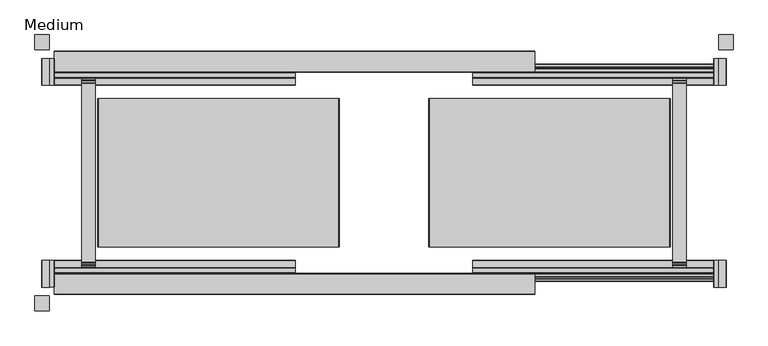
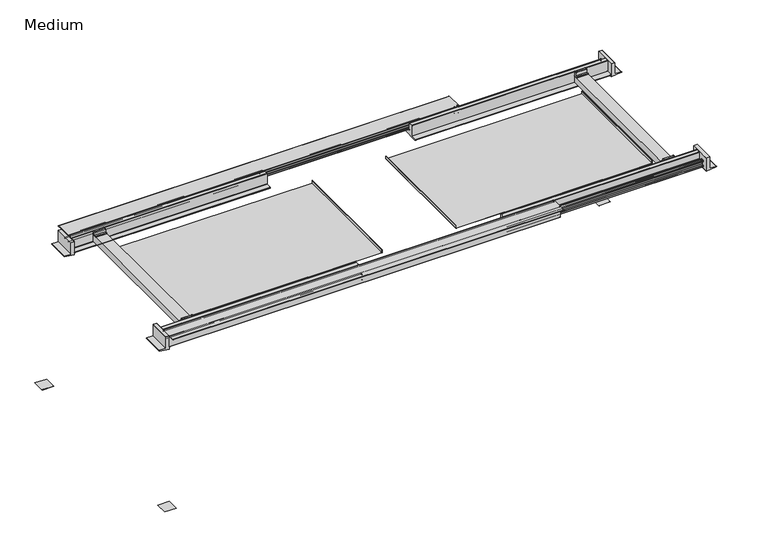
"""IFC4 building model written with IfcOpenShell, lengths in millimetres: furniture geometry, Haworth_Cassina_Naan_CollaborativeTable_ExtendableWidth_NA : Medium."""

from ifc_helpers import new_model, si_unit, point, frame, frame_2d, origin, place, context, project, spatial, polyline, circle_curve, trimmed, segment, composite_curve, outline, extrude, faceted_brep, source, transform, mapped, element, save


def medium_d73daffb(model_context):
    return source(origin(), model_context, "Body", "SolidModel", [
        extrude(outline(composite_curve([segment(polyline([(-664.0054144, 692.1374765), (-665.6185041, 692.1374765)]), True, "CONTINUOUS"), segment(trimmed(circle_curve(frame_2d((-665.6185041, 692.6405674)), 0.5030909), [point((-665.6185041, 692.1374765))], [point((-666.121595, 692.6405674))], False, "CARTESIAN"), True, "CONTINUOUS"), segment(polyline([(-666.121595, 692.6405674), (-666.121595, 698.8728326)]), True, "CONTINUOUS"), segment(trimmed(circle_curve(frame_2d((-665.1401983, 698.8728326)), 0.9813967), [point((-666.121595, 698.8728326))], [point((-665.1401983, 699.8542294))], False, "CARTESIAN"), True, "CONTINUOUS"), segment(polyline([(-665.1401983, 699.8542294), (-656.6941232, 699.8542294)]), True, "CONTINUOUS"), segment(trimmed(circle_curve(frame_2d((-656.6941232, 697.8266666)), 2.0275627), [point((-656.6941232, 699.8542294))], [point((-654.9382044, 698.8404515))], False, "CARTESIAN"), True, "CONTINUOUS"), segment(polyline([(-654.9382044, 698.8404515), (-650.3525487, 690.897899)]), True, "CONTINUOUS"), segment(trimmed(circle_curve(frame_2d((-648.5163338, 691.958043)), 2.1202807), [point((-650.3525487, 690.897899))], [point((-648.5163338, 689.8377623))], True, "CARTESIAN"), True, "CONTINUOUS"), segment(polyline([(-648.5163338, 689.8377623), (-639.4067348, 689.8377623)]), True, "CONTINUOUS"), segment(trimmed(circle_curve(frame_2d((-639.4067348, 692.0120822)), 2.1743199), [point((-639.4067348, 689.8377623))], [point((-637.2324149, 692.0120822))], True, "CARTESIAN"), True, "CONTINUOUS"), segment(polyline([(-637.2324149, 692.0120822), (-637.2324149, 719.0397901)]), True, "CONTINUOUS"), segment(trimmed(circle_curve(frame_2d((-636.2317078, 719.0397901)), 1.0007071), [point((-637.2324149, 719.0397901))], [point((-636.2317078, 720.0404972))], False, "CARTESIAN"), True, "CONTINUOUS"), segment(polyline([(-636.2317078, 720.0404972), (-619.8394583, 720.0404972)]), True, "CONTINUOUS"), segment(trimmed(circle_curve(frame_2d((-619.8394583, 719.0315894)), 1.0089078), [point((-619.8394583, 720.0404972))], [point((-618.8305505, 719.0315894))], False, "CARTESIAN"), True, "CONTINUOUS"), segment(polyline([(-618.8305505, 719.0315894), (-618.8305505, 672.9833047)]), True, "CONTINUOUS"), segment(trimmed(circle_curve(frame_2d((-618.3095425, 672.9833047)), 0.5210081), [point((-618.8305505, 672.9833047))], [point((-618.3095425, 672.4622967))], True, "CARTESIAN"), True, "CONTINUOUS"), segment(polyline([(-618.3095425, 672.4622967), (-594.0166193, 672.4622967)]), True, "CONTINUOUS"), segment(trimmed(circle_curve(frame_2d((-594.0166193, 671.9276897)), 0.5346069), [point((-594.0166193, 672.4622967))], [point((-593.4820123, 671.9276897))], False, "CARTESIAN"), True, "CONTINUOUS"), segment(polyline([(-593.4820123, 671.9276897), (-593.4820123, 670.9693003)]), True, "CONTINUOUS"), segment(trimmed(circle_curve(frame_2d((-594.5442379, 670.9693003)), 1.0622255), [point((-593.4820123, 670.9693003))], [point((-594.5442379, 669.9070747))], False, "CARTESIAN"), True, "CONTINUOUS"), segment(polyline([(-594.5442379, 669.9070747), (-665.100769, 669.9070747)]), True, "CONTINUOUS"), segment(trimmed(circle_curve(frame_2d((-665.100769, 670.9638083)), 1.0567335), [point((-665.100769, 669.9070747))], [point((-666.1575025, 670.9638083))], False, "CARTESIAN"), True, "CONTINUOUS"), segment(polyline([(-666.1575025, 670.9638083), (-666.1575025, 677.3171602), (-664.010774, 677.3171602)]), True, "CONTINUOUS"), segment(trimmed(circle_curve(frame_2d((-664.010774, 676.802161)), 0.5149992), [point((-664.010774, 677.3171602))], [point((-663.4957748, 676.802161))], False, "CARTESIAN"), True, "CONTINUOUS"), segment(polyline([(-663.4957748, 676.802161), (-663.4957748, 673.0347332)]), True, "CONTINUOUS"), segment(trimmed(circle_curve(frame_2d((-662.9233382, 673.0347332)), 0.5724365), [point((-663.4957748, 673.0347332))], [point((-662.9233382, 672.4622967))], True, "CARTESIAN"), True, "CONTINUOUS"), segment(polyline([(-662.9233382, 672.4622967), (-657.6605323, 672.4622967)]), True, "CONTINUOUS"), segment(trimmed(circle_curve(frame_2d((-657.6605323, 672.9596902)), 0.4973935), [point((-657.6605323, 672.4622967))], [point((-657.1631387, 672.9596902))], True, "CARTESIAN"), True, "CONTINUOUS"), segment(polyline([(-657.1631387, 672.9596902), (-657.1631387, 678.5947712)]), True, "CONTINUOUS"), segment(trimmed(circle_curve(frame_2d((-656.4889976, 678.5947712)), 0.6741412), [point((-657.1631387, 678.5947712))], [point((-656.6520871, 679.2488875))], False, "CARTESIAN"), True, "CONTINUOUS"), segment(polyline([(-656.6520871, 679.2488875), (-656.6520871, 690.3487776)]), True, "CONTINUOUS"), segment(trimmed(circle_curve(frame_2d((-656.6436756, 690.8747711)), 0.5260608), [point((-656.6520871, 690.3487776))], [point((-657.1631387, 690.9578252))], False, "CARTESIAN"), True, "CONTINUOUS"), segment(polyline([(-657.1631387, 690.9578252), (-657.1631387, 696.7295036)]), True, "CONTINUOUS"), segment(trimmed(circle_curve(frame_2d((-657.7326425, 696.7295036)), 0.5695038), [point((-657.1631387, 696.7295036))], [point((-657.7326425, 697.2990074))], True, "CARTESIAN"), True, "CONTINUOUS"), segment(polyline([(-657.7326425, 697.2990074), (-662.9627406, 697.2990074)]), True, "CONTINUOUS"), segment(trimmed(circle_curve(frame_2d((-662.9627406, 696.7659732)), 0.5330342), [point((-662.9627406, 697.2990074))], [point((-663.4957748, 696.7659732))], True, "CARTESIAN"), True, "CONTINUOUS"), segment(polyline([(-663.4957748, 696.7659732), (-663.4957748, 692.6471162)]), True, "CONTINUOUS"), segment(trimmed(circle_curve(frame_2d((-664.0054144, 692.6471162)), 0.5096396), [point((-663.4957748, 692.6471162))], [point((-664.0054144, 692.1374765))], False, "CARTESIAN"), True, "CONTINUOUS")], self_intersect=False)), frame((149.9521662, 0.0, 0.0), z_axis=(1.0, 0.0, 0.0), x_axis=(0.0, 1.0, 0.0)), (0.0, 0.0, 1.0), 828.04),
        extrude(outline(composite_curve([segment(polyline([(-664.0054144, 692.1374765), (-665.6185041, 692.1374765)]), True, "CONTINUOUS"), segment(trimmed(circle_curve(frame_2d((-665.6185041, 692.6405674)), 0.5030909), [point((-665.6185041, 692.1374765))], [point((-666.121595, 692.6405674))], False, "CARTESIAN"), True, "CONTINUOUS"), segment(polyline([(-666.121595, 692.6405674), (-666.121595, 698.8728326)]), True, "CONTINUOUS"), segment(trimmed(circle_curve(frame_2d((-665.1401983, 698.8728326)), 0.9813967), [point((-666.121595, 698.8728326))], [point((-665.1401983, 699.8542294))], False, "CARTESIAN"), True, "CONTINUOUS"), segment(polyline([(-665.1401983, 699.8542294), (-656.6941232, 699.8542294)]), True, "CONTINUOUS"), segment(trimmed(circle_curve(frame_2d((-656.6941232, 697.8266666)), 2.0275627), [point((-656.6941232, 699.8542294))], [point((-654.9382044, 698.8404515))], False, "CARTESIAN"), True, "CONTINUOUS"), segment(polyline([(-654.9382044, 698.8404515), (-650.3525487, 690.897899)]), True, "CONTINUOUS"), segment(trimmed(circle_curve(frame_2d((-648.5163338, 691.958043)), 2.1202807), [point((-650.3525487, 690.897899))], [point((-648.5163338, 689.8377623))], True, "CARTESIAN"), True, "CONTINUOUS"), segment(polyline([(-648.5163338, 689.8377623), (-639.4067348, 689.8377623)]), True, "CONTINUOUS"), segment(trimmed(circle_curve(frame_2d((-639.4067348, 692.0120822)), 2.1743199), [point((-639.4067348, 689.8377623))], [point((-637.2324149, 692.0120822))], True, "CARTESIAN"), True, "CONTINUOUS"), segment(polyline([(-637.2324149, 692.0120822), (-637.2324149, 719.0397901)]), True, "CONTINUOUS"), segment(trimmed(circle_curve(frame_2d((-636.2317078, 719.0397901)), 1.0007071), [point((-637.2324149, 719.0397901))], [point((-636.2317078, 720.0404972))], False, "CARTESIAN"), True, "CONTINUOUS"), segment(polyline([(-636.2317078, 720.0404972), (-619.8394583, 720.0404972)]), True, "CONTINUOUS"), segment(trimmed(circle_curve(frame_2d((-619.8394583, 719.0315894)), 1.0089078), [point((-619.8394583, 720.0404972))], [point((-618.8305505, 719.0315894))], False, "CARTESIAN"), True, "CONTINUOUS"), segment(polyline([(-618.8305505, 719.0315894), (-618.8305505, 672.9833047)]), True, "CONTINUOUS"), segment(trimmed(circle_curve(frame_2d((-618.3095425, 672.9833047)), 0.5210081), [point((-618.8305505, 672.9833047))], [point((-618.3095425, 672.4622967))], True, "CARTESIAN"), True, "CONTINUOUS"), segment(polyline([(-618.3095425, 672.4622967), (-594.0166193, 672.4622967)]), True, "CONTINUOUS"), segment(trimmed(circle_curve(frame_2d((-594.0166193, 671.9276897)), 0.5346069), [point((-594.0166193, 672.4622967))], [point((-593.4820123, 671.9276897))], False, "CARTESIAN"), True, "CONTINUOUS"), segment(polyline([(-593.4820123, 671.9276897), (-593.4820123, 670.9693003)]), True, "CONTINUOUS"), segment(trimmed(circle_curve(frame_2d((-594.5442379, 670.9693003)), 1.0622255), [point((-593.4820123, 670.9693003))], [point((-594.5442379, 669.9070747))], False, "CARTESIAN"), True, "CONTINUOUS"), segment(polyline([(-594.5442379, 669.9070747), (-665.100769, 669.9070747)]), True, "CONTINUOUS"), segment(trimmed(circle_curve(frame_2d((-665.100769, 670.9638083)), 1.0567335), [point((-665.100769, 669.9070747))], [point((-666.1575025, 670.9638083))], False, "CARTESIAN"), True, "CONTINUOUS"), segment(polyline([(-666.1575025, 670.9638083), (-666.1575025, 677.3171602), (-664.010774, 677.3171602)]), True, "CONTINUOUS"), segment(trimmed(circle_curve(frame_2d((-664.010774, 676.802161)), 0.5149992), [point((-664.010774, 677.3171602))], [point((-663.4957748, 676.802161))], False, "CARTESIAN"), True, "CONTINUOUS"), segment(polyline([(-663.4957748, 676.802161), (-663.4957748, 673.0347332)]), True, "CONTINUOUS"), segment(trimmed(circle_curve(frame_2d((-662.9233382, 673.0347332)), 0.5724365), [point((-663.4957748, 673.0347332))], [point((-662.9233382, 672.4622967))], True, "CARTESIAN"), True, "CONTINUOUS"), segment(polyline([(-662.9233382, 672.4622967), (-657.6605323, 672.4622967)]), True, "CONTINUOUS"), segment(trimmed(circle_curve(frame_2d((-657.6605323, 672.9596902)), 0.4973935), [point((-657.6605323, 672.4622967))], [point((-657.1631387, 672.9596902))], True, "CARTESIAN"), True, "CONTINUOUS"), segment(polyline([(-657.1631387, 672.9596902), (-657.1631387, 678.5947712)]), True, "CONTINUOUS"), segment(trimmed(circle_curve(frame_2d((-656.4889976, 678.5947712)), 0.6741412), [point((-657.1631387, 678.5947712))], [point((-656.6520871, 679.2488875))], False, "CARTESIAN"), True, "CONTINUOUS"), segment(polyline([(-656.6520871, 679.2488875), (-656.6520871, 690.3487776)]), True, "CONTINUOUS"), segment(trimmed(circle_curve(frame_2d((-656.6436756, 690.8747711)), 0.5260608), [point((-656.6520871, 690.3487776))], [point((-657.1631387, 690.9578252))], False, "CARTESIAN"), True, "CONTINUOUS"), segment(polyline([(-657.1631387, 690.9578252), (-657.1631387, 696.7295036)]), True, "CONTINUOUS"), segment(trimmed(circle_curve(frame_2d((-657.7326425, 696.7295036)), 0.5695038), [point((-657.1631387, 696.7295036))], [point((-657.7326425, 697.2990074))], True, "CARTESIAN"), True, "CONTINUOUS"), segment(polyline([(-657.7326425, 697.2990074), (-662.9627406, 697.2990074)]), True, "CONTINUOUS"), segment(trimmed(circle_curve(frame_2d((-662.9627406, 696.7659732)), 0.5330342), [point((-662.9627406, 697.2990074))], [point((-663.4957748, 696.7659732))], True, "CARTESIAN"), True, "CONTINUOUS"), segment(polyline([(-663.4957748, 696.7659732), (-663.4957748, 692.6471162)]), True, "CONTINUOUS"), segment(trimmed(circle_curve(frame_2d((-664.0054144, 692.6471162)), 0.5096396), [point((-663.4957748, 692.6471162))], [point((-664.0054144, 692.1374765))], False, "CARTESIAN"), True, "CONTINUOUS")], self_intersect=False)), frame((-1288.8827425, 0.0, 0.0), z_axis=(1.0, 0.0, 0.0), x_axis=(0.0, 1.0, 0.0)), (0.0, 0.0, 1.0), 828.04),
        extrude(outline(composite_curve([segment(trimmed(circle_curve(frame_2d((-710.3503281, 719.561379)), 0.5184953), [point((-710.3503281, 719.0428837))], [point((-710.8688234, 719.561379))], False, "CARTESIAN"), True, "CONTINUOUS"), segment(polyline([(-710.8688234, 719.561379), (-710.8688234, 720.5558969)]), True, "CONTINUOUS"), segment(trimmed(circle_curve(frame_2d((-709.8266147, 720.5558969)), 1.0422087), [point((-710.8688234, 720.5558969))], [point((-709.8266147, 721.5981056))], False, "CARTESIAN"), True, "CONTINUOUS"), segment(polyline([(-709.8266147, 721.5981056), (-639.3499458, 721.5981056)]), True, "CONTINUOUS"), segment(trimmed(circle_curve(frame_2d((-639.3499458, 720.474301)), 1.1238046), [point((-639.3499458, 721.5981056))], [point((-638.2261412, 720.474301))], False, "CARTESIAN"), True, "CONTINUOUS"), segment(polyline([(-638.2261412, 720.474301), (-638.2261412, 714.1880201), (-640.2557025, 714.1880201)]), True, "CONTINUOUS"), segment(trimmed(circle_curve(frame_2d((-640.2557025, 714.7137808)), 0.5257607), [point((-640.2557025, 714.1880201))], [point((-640.7814631, 714.7137808))], False, "CARTESIAN"), True, "CONTINUOUS"), segment(polyline([(-640.7814631, 714.7137808), (-640.7814631, 718.5453203)]), True, "CONTINUOUS"), segment(trimmed(circle_curve(frame_2d((-641.2790265, 718.5453203)), 0.4975633), [point((-640.7814631, 718.5453203))], [point((-641.2790265, 719.0428837))], True, "CARTESIAN"), True, "CONTINUOUS"), segment(polyline([(-641.2790265, 719.0428837), (-646.7486124, 719.0428837)]), True, "CONTINUOUS"), segment(trimmed(circle_curve(frame_2d((-646.7486124, 718.4965538)), 0.5463299), [point((-646.7486124, 719.0428837))], [point((-647.2949423, 718.4965538))], True, "CARTESIAN"), True, "CONTINUOUS"), segment(polyline([(-647.2949423, 718.4965538), (-647.2949423, 713.0710995)]), True, "CONTINUOUS"), segment(trimmed(circle_curve(frame_2d((-647.8381804, 712.9534926)), 0.5558229), [point((-647.2949423, 713.0710995))], [point((-647.805994, 712.3986024))], False, "CARTESIAN"), True, "CONTINUOUS"), segment(polyline([(-647.805994, 712.3986024), (-647.805994, 701.1563301)]), True, "CONTINUOUS"), segment(trimmed(circle_curve(frame_2d((-647.8895382, 700.5617282)), 0.6004424), [point((-647.805994, 701.1563301))], [point((-647.2949423, 700.4781417))], False, "CARTESIAN"), True, "CONTINUOUS"), segment(polyline([(-647.2949423, 700.4781417), (-647.2949423, 694.7344457)]), True, "CONTINUOUS"), segment(trimmed(circle_curve(frame_2d((-646.7666695, 694.7344457)), 0.5282728), [point((-647.2949423, 694.7344457))], [point((-646.7666695, 694.2061729))], True, "CARTESIAN"), True, "CONTINUOUS"), segment(polyline([(-646.7666695, 694.2061729), (-641.2937409, 694.2061729)]), True, "CONTINUOUS"), segment(trimmed(circle_curve(frame_2d((-641.2937409, 694.7184507)), 0.5122777), [point((-641.2937409, 694.2061729))], [point((-640.7814631, 694.7184507))], True, "CARTESIAN"), True, "CONTINUOUS"), segment(polyline([(-640.7814631, 694.7184507), (-640.7814631, 698.8262987)]), True, "CONTINUOUS"), segment(trimmed(circle_curve(frame_2d((-640.240058, 698.8262987)), 0.5414051), [point((-640.7814631, 698.8262987))], [point((-640.240058, 699.3677038))], False, "CARTESIAN"), True, "CONTINUOUS"), segment(polyline([(-640.240058, 699.3677038), (-638.7670585, 699.3677038)]), True, "CONTINUOUS"), segment(trimmed(circle_curve(frame_2d((-638.7670585, 698.8267865)), 0.5409173), [point((-638.7670585, 699.3677038))], [point((-638.2261412, 698.8267865))], False, "CARTESIAN"), True, "CONTINUOUS"), segment(polyline([(-638.2261412, 698.8267865), (-638.2261412, 692.6569061)]), True, "CONTINUOUS"), segment(trimmed(circle_curve(frame_2d((-639.2320963, 692.6569061)), 1.0059551), [point((-638.2261412, 692.6569061))], [point((-639.2320963, 691.650951))], False, "CARTESIAN"), True, "CONTINUOUS"), segment(polyline([(-639.2320963, 691.650951), (-647.5467541, 691.650951)]), True, "CONTINUOUS"), segment(trimmed(circle_curve(frame_2d((-647.5467541, 693.8686588)), 2.2177077), [point((-647.5467541, 691.650951))], [point((-649.4680231, 692.7609795))], False, "CARTESIAN"), True, "CONTINUOUS"), segment(polyline([(-649.4680231, 692.7609795), (-653.965085, 700.5611309)]), True, "CONTINUOUS"), segment(trimmed(circle_curve(frame_2d((-655.8798783, 699.4571852)), 2.2102329), [point((-653.965085, 700.5611309))], [point((-655.8798783, 701.6674181))], True, "CARTESIAN"), True, "CONTINUOUS"), segment(polyline([(-655.8798783, 701.6674181), (-665.0085569, 701.6674181)]), True, "CONTINUOUS"), segment(trimmed(circle_curve(frame_2d((-665.0085569, 699.5247462)), 2.1426719), [point((-665.0085569, 701.6674181))], [point((-667.1512288, 699.5247462))], True, "CARTESIAN"), True, "CONTINUOUS"), segment(polyline([(-667.1512288, 699.5247462), (-667.1512288, 672.4669547)]), True, "CONTINUOUS"), segment(trimmed(circle_curve(frame_2d((-668.1535004, 672.4669547)), 1.0022716), [point((-667.1512288, 672.4669547))], [point((-668.1535004, 671.4646832))], False, "CARTESIAN"), True, "CONTINUOUS"), segment(polyline([(-668.1535004, 671.4646832), (-684.4996082, 671.4646832)]), True, "CONTINUOUS"), segment(trimmed(circle_curve(frame_2d((-684.4996082, 672.4860996)), 1.0214165), [point((-684.4996082, 671.4646832))], [point((-685.5210247, 672.4860996))], False, "CARTESIAN"), True, "CONTINUOUS"), segment(polyline([(-685.5210247, 672.4860996), (-685.5210247, 718.5127518)]), True, "CONTINUOUS"), segment(trimmed(circle_curve(frame_2d((-686.0511566, 718.5127518)), 0.5301319), [point((-685.5210247, 718.5127518))], [point((-686.0511566, 719.0428837))], True, "CARTESIAN"), True, "CONTINUOUS"), segment(polyline([(-686.0511566, 719.0428837), (-710.3503281, 719.0428837)]), True, "CONTINUOUS")], self_intersect=False)), frame((-1288.8827425, 0.0, 0.0), z_axis=(1.0, 0.0, 0.0), x_axis=(0.0, 1.0, 0.0)), (0.0, 0.0, 1.0), 1651.0),
        extrude(outline(composite_curve([segment(trimmed(circle_curve(frame_2d((79.8054144, 692.6471162)), 0.5096396), [point((79.8054144, 692.1374765))], [point((79.2957748, 692.6471162))], False, "CARTESIAN"), True, "CONTINUOUS"), segment(polyline([(79.2957748, 692.6471162), (79.2957748, 696.7659732)]), True, "CONTINUOUS"), segment(trimmed(circle_curve(frame_2d((78.7627406, 696.7659732)), 0.5330342), [point((79.2957748, 696.7659732))], [point((78.7627406, 697.2990074))], True, "CARTESIAN"), True, "CONTINUOUS"), segment(polyline([(78.7627406, 697.2990074), (73.5326425, 697.2990074)]), True, "CONTINUOUS"), segment(trimmed(circle_curve(frame_2d((73.5326425, 696.7295036)), 0.5695038), [point((73.5326425, 697.2990074))], [point((72.9631387, 696.7295036))], True, "CARTESIAN"), True, "CONTINUOUS"), segment(polyline([(72.9631387, 696.7295036), (72.9631387, 690.9578252)]), True, "CONTINUOUS"), segment(trimmed(circle_curve(frame_2d((72.4436756, 690.8747711)), 0.5260608), [point((72.9631387, 690.9578252))], [point((72.4520871, 690.3487776))], False, "CARTESIAN"), True, "CONTINUOUS"), segment(polyline([(72.4520871, 690.3487776), (72.4520871, 679.2488875)]), True, "CONTINUOUS"), segment(trimmed(circle_curve(frame_2d((72.2889976, 678.5947712)), 0.6741412), [point((72.4520871, 679.2488875))], [point((72.9631387, 678.5947712))], False, "CARTESIAN"), True, "CONTINUOUS"), segment(polyline([(72.9631387, 678.5947712), (72.9631387, 672.9596902)]), True, "CONTINUOUS"), segment(trimmed(circle_curve(frame_2d((73.4605323, 672.9596902)), 0.4973935), [point((72.9631387, 672.9596902))], [point((73.4605323, 672.4622967))], True, "CARTESIAN"), True, "CONTINUOUS"), segment(polyline([(73.4605323, 672.4622967), (78.7233382, 672.4622967)]), True, "CONTINUOUS"), segment(trimmed(circle_curve(frame_2d((78.7233382, 673.0347332)), 0.5724365), [point((78.7233382, 672.4622967))], [point((79.2957748, 673.0347332))], True, "CARTESIAN"), True, "CONTINUOUS"), segment(polyline([(79.2957748, 673.0347332), (79.2957748, 676.802161)]), True, "CONTINUOUS"), segment(trimmed(circle_curve(frame_2d((79.810774, 676.802161)), 0.5149992), [point((79.2957748, 676.802161))], [point((79.810774, 677.3171602))], False, "CARTESIAN"), True, "CONTINUOUS"), segment(polyline([(79.810774, 677.3171602), (81.9575025, 677.3171602), (81.9575025, 670.9638083)]), True, "CONTINUOUS"), segment(trimmed(circle_curve(frame_2d((80.900769, 670.9638083)), 1.0567335), [point((81.9575025, 670.9638083))], [point((80.900769, 669.9070747))], False, "CARTESIAN"), True, "CONTINUOUS"), segment(polyline([(80.900769, 669.9070747), (10.3442379, 669.9070747)]), True, "CONTINUOUS"), segment(trimmed(circle_curve(frame_2d((10.3442379, 670.9693003)), 1.0622255), [point((10.3442379, 669.9070747))], [point((9.2820123, 670.9693003))], False, "CARTESIAN"), True, "CONTINUOUS"), segment(polyline([(9.2820123, 670.9693003), (9.2820123, 671.9276897)]), True, "CONTINUOUS"), segment(trimmed(circle_curve(frame_2d((9.8166193, 671.9276897)), 0.5346069), [point((9.2820123, 671.9276897))], [point((9.8166193, 672.4622967))], False, "CARTESIAN"), True, "CONTINUOUS"), segment(polyline([(9.8166193, 672.4622967), (34.1095425, 672.4622967)]), True, "CONTINUOUS"), segment(trimmed(circle_curve(frame_2d((34.1095425, 672.9833047)), 0.5210081), [point((34.1095425, 672.4622967))], [point((34.6305505, 672.9833047))], True, "CARTESIAN"), True, "CONTINUOUS"), segment(polyline([(34.6305505, 672.9833047), (34.6305505, 719.0315894)]), True, "CONTINUOUS"), segment(trimmed(circle_curve(frame_2d((35.6394583, 719.0315894)), 1.0089078), [point((34.6305505, 719.0315894))], [point((35.6394583, 720.0404972))], False, "CARTESIAN"), True, "CONTINUOUS"), segment(polyline([(35.6394583, 720.0404972), (52.0317078, 720.0404972)]), True, "CONTINUOUS"), segment(trimmed(circle_curve(frame_2d((52.0317078, 719.0397901)), 1.0007071), [point((52.0317078, 720.0404972))], [point((53.0324149, 719.0397901))], False, "CARTESIAN"), True, "CONTINUOUS"), segment(polyline([(53.0324149, 719.0397901), (53.0324149, 692.0120822)]), True, "CONTINUOUS"), segment(trimmed(circle_curve(frame_2d((55.2067348, 692.0120822)), 2.1743199), [point((53.0324149, 692.0120822))], [point((55.2067348, 689.8377623))], True, "CARTESIAN"), True, "CONTINUOUS"), segment(polyline([(55.2067348, 689.8377623), (64.3163338, 689.8377623)]), True, "CONTINUOUS"), segment(trimmed(circle_curve(frame_2d((64.3163338, 691.958043)), 2.1202807), [point((64.3163338, 689.8377623))], [point((66.1525487, 690.897899))], True, "CARTESIAN"), True, "CONTINUOUS"), segment(polyline([(66.1525487, 690.897899), (70.7382044, 698.8404515)]), True, "CONTINUOUS"), segment(trimmed(circle_curve(frame_2d((72.4941232, 697.8266666)), 2.0275627), [point((70.7382044, 698.8404515))], [point((72.4941232, 699.8542294))], False, "CARTESIAN"), True, "CONTINUOUS"), segment(polyline([(72.4941232, 699.8542294), (80.9401983, 699.8542294)]), True, "CONTINUOUS"), segment(trimmed(circle_curve(frame_2d((80.9401983, 698.8728326)), 0.9813967), [point((80.9401983, 699.8542294))], [point((81.921595, 698.8728326))], False, "CARTESIAN"), True, "CONTINUOUS"), segment(polyline([(81.921595, 698.8728326), (81.921595, 692.6405674)]), True, "CONTINUOUS"), segment(trimmed(circle_curve(frame_2d((81.4185041, 692.6405674)), 0.5030909), [point((81.921595, 692.6405674))], [point((81.4185041, 692.1374765))], False, "CARTESIAN"), True, "CONTINUOUS"), segment(polyline([(81.4185041, 692.1374765), (79.8054144, 692.1374765)]), True, "CONTINUOUS")], self_intersect=False)), frame((149.9521662, 0.0, 0.0), z_axis=(1.0, 0.0, 0.0), x_axis=(0.0, 1.0, 0.0)), (0.0, 0.0, 1.0), 828.04),
        extrude(outline(composite_curve([segment(trimmed(circle_curve(frame_2d((79.8054144, 692.6471162)), 0.5096396), [point((79.8054144, 692.1374765))], [point((79.2957748, 692.6471162))], False, "CARTESIAN"), True, "CONTINUOUS"), segment(polyline([(79.2957748, 692.6471162), (79.2957748, 696.7659732)]), True, "CONTINUOUS"), segment(trimmed(circle_curve(frame_2d((78.7627406, 696.7659732)), 0.5330342), [point((79.2957748, 696.7659732))], [point((78.7627406, 697.2990074))], True, "CARTESIAN"), True, "CONTINUOUS"), segment(polyline([(78.7627406, 697.2990074), (73.5326425, 697.2990074)]), True, "CONTINUOUS"), segment(trimmed(circle_curve(frame_2d((73.5326425, 696.7295036)), 0.5695038), [point((73.5326425, 697.2990074))], [point((72.9631387, 696.7295036))], True, "CARTESIAN"), True, "CONTINUOUS"), segment(polyline([(72.9631387, 696.7295036), (72.9631387, 690.9578252)]), True, "CONTINUOUS"), segment(trimmed(circle_curve(frame_2d((72.4436756, 690.8747711)), 0.5260608), [point((72.9631387, 690.9578252))], [point((72.4520871, 690.3487776))], False, "CARTESIAN"), True, "CONTINUOUS"), segment(polyline([(72.4520871, 690.3487776), (72.4520871, 679.2488875)]), True, "CONTINUOUS"), segment(trimmed(circle_curve(frame_2d((72.2889976, 678.5947712)), 0.6741412), [point((72.4520871, 679.2488875))], [point((72.9631387, 678.5947712))], False, "CARTESIAN"), True, "CONTINUOUS"), segment(polyline([(72.9631387, 678.5947712), (72.9631387, 672.9596902)]), True, "CONTINUOUS"), segment(trimmed(circle_curve(frame_2d((73.4605323, 672.9596902)), 0.4973935), [point((72.9631387, 672.9596902))], [point((73.4605323, 672.4622967))], True, "CARTESIAN"), True, "CONTINUOUS"), segment(polyline([(73.4605323, 672.4622967), (78.7233382, 672.4622967)]), True, "CONTINUOUS"), segment(trimmed(circle_curve(frame_2d((78.7233382, 673.0347332)), 0.5724365), [point((78.7233382, 672.4622967))], [point((79.2957748, 673.0347332))], True, "CARTESIAN"), True, "CONTINUOUS"), segment(polyline([(79.2957748, 673.0347332), (79.2957748, 676.802161)]), True, "CONTINUOUS"), segment(trimmed(circle_curve(frame_2d((79.810774, 676.802161)), 0.5149992), [point((79.2957748, 676.802161))], [point((79.810774, 677.3171602))], False, "CARTESIAN"), True, "CONTINUOUS"), segment(polyline([(79.810774, 677.3171602), (81.9575025, 677.3171602), (81.9575025, 670.9638083)]), True, "CONTINUOUS"), segment(trimmed(circle_curve(frame_2d((80.900769, 670.9638083)), 1.0567335), [point((81.9575025, 670.9638083))], [point((80.900769, 669.9070747))], False, "CARTESIAN"), True, "CONTINUOUS"), segment(polyline([(80.900769, 669.9070747), (10.3442379, 669.9070747)]), True, "CONTINUOUS"), segment(trimmed(circle_curve(frame_2d((10.3442379, 670.9693003)), 1.0622255), [point((10.3442379, 669.9070747))], [point((9.2820123, 670.9693003))], False, "CARTESIAN"), True, "CONTINUOUS"), segment(polyline([(9.2820123, 670.9693003), (9.2820123, 671.9276897)]), True, "CONTINUOUS"), segment(trimmed(circle_curve(frame_2d((9.8166193, 671.9276897)), 0.5346069), [point((9.2820123, 671.9276897))], [point((9.8166193, 672.4622967))], False, "CARTESIAN"), True, "CONTINUOUS"), segment(polyline([(9.8166193, 672.4622967), (34.1095425, 672.4622967)]), True, "CONTINUOUS"), segment(trimmed(circle_curve(frame_2d((34.1095425, 672.9833047)), 0.5210081), [point((34.1095425, 672.4622967))], [point((34.6305505, 672.9833047))], True, "CARTESIAN"), True, "CONTINUOUS"), segment(polyline([(34.6305505, 672.9833047), (34.6305505, 719.0315894)]), True, "CONTINUOUS"), segment(trimmed(circle_curve(frame_2d((35.6394583, 719.0315894)), 1.0089078), [point((34.6305505, 719.0315894))], [point((35.6394583, 720.0404972))], False, "CARTESIAN"), True, "CONTINUOUS"), segment(polyline([(35.6394583, 720.0404972), (52.0317078, 720.0404972)]), True, "CONTINUOUS"), segment(trimmed(circle_curve(frame_2d((52.0317078, 719.0397901)), 1.0007071), [point((52.0317078, 720.0404972))], [point((53.0324149, 719.0397901))], False, "CARTESIAN"), True, "CONTINUOUS"), segment(polyline([(53.0324149, 719.0397901), (53.0324149, 692.0120822)]), True, "CONTINUOUS"), segment(trimmed(circle_curve(frame_2d((55.2067348, 692.0120822)), 2.1743199), [point((53.0324149, 692.0120822))], [point((55.2067348, 689.8377623))], True, "CARTESIAN"), True, "CONTINUOUS"), segment(polyline([(55.2067348, 689.8377623), (64.3163338, 689.8377623)]), True, "CONTINUOUS"), segment(trimmed(circle_curve(frame_2d((64.3163338, 691.958043)), 2.1202807), [point((64.3163338, 689.8377623))], [point((66.1525487, 690.897899))], True, "CARTESIAN"), True, "CONTINUOUS"), segment(polyline([(66.1525487, 690.897899), (70.7382044, 698.8404515)]), True, "CONTINUOUS"), segment(trimmed(circle_curve(frame_2d((72.4941232, 697.8266666)), 2.0275627), [point((70.7382044, 698.8404515))], [point((72.4941232, 699.8542294))], False, "CARTESIAN"), True, "CONTINUOUS"), segment(polyline([(72.4941232, 699.8542294), (80.9401983, 699.8542294)]), True, "CONTINUOUS"), segment(trimmed(circle_curve(frame_2d((80.9401983, 698.8728326)), 0.9813967), [point((80.9401983, 699.8542294))], [point((81.921595, 698.8728326))], False, "CARTESIAN"), True, "CONTINUOUS"), segment(polyline([(81.921595, 698.8728326), (81.921595, 692.6405674)]), True, "CONTINUOUS"), segment(trimmed(circle_curve(frame_2d((81.4185041, 692.6405674)), 0.5030909), [point((81.921595, 692.6405674))], [point((81.4185041, 692.1374765))], False, "CARTESIAN"), True, "CONTINUOUS"), segment(polyline([(81.4185041, 692.1374765), (79.8054144, 692.1374765)]), True, "CONTINUOUS")], self_intersect=False)), frame((-1288.8827425, 0.0, 0.0), z_axis=(1.0, 0.0, 0.0), x_axis=(0.0, 1.0, 0.0)), (0.0, 0.0, 1.0), 828.04),
        extrude(outline(composite_curve([segment(polyline([(126.1503281, 719.0428837), (101.8511566, 719.0428837)]), True, "CONTINUOUS"), segment(trimmed(circle_curve(frame_2d((101.8511566, 718.5127518)), 0.5301319), [point((101.8511566, 719.0428837))], [point((101.3210247, 718.5127518))], True, "CARTESIAN"), True, "CONTINUOUS"), segment(polyline([(101.3210247, 718.5127518), (101.3210247, 672.4860996)]), True, "CONTINUOUS"), segment(trimmed(circle_curve(frame_2d((100.2996082, 672.4860996)), 1.0214165), [point((101.3210247, 672.4860996))], [point((100.2996082, 671.4646832))], False, "CARTESIAN"), True, "CONTINUOUS"), segment(polyline([(100.2996082, 671.4646832), (83.9535004, 671.4646832)]), True, "CONTINUOUS"), segment(trimmed(circle_curve(frame_2d((83.9535004, 672.4669547)), 1.0022716), [point((83.9535004, 671.4646832))], [point((82.9512288, 672.4669547))], False, "CARTESIAN"), True, "CONTINUOUS"), segment(polyline([(82.9512288, 672.4669547), (82.9512288, 699.5247462)]), True, "CONTINUOUS"), segment(trimmed(circle_curve(frame_2d((80.8085569, 699.5247462)), 2.1426719), [point((82.9512288, 699.5247462))], [point((80.8085569, 701.6674181))], True, "CARTESIAN"), True, "CONTINUOUS"), segment(polyline([(80.8085569, 701.6674181), (71.6798783, 701.6674181)]), True, "CONTINUOUS"), segment(trimmed(circle_curve(frame_2d((71.6798783, 699.4571852)), 2.2102329), [point((71.6798783, 701.6674181))], [point((69.765085, 700.5611309))], True, "CARTESIAN"), True, "CONTINUOUS"), segment(polyline([(69.765085, 700.5611309), (65.2680231, 692.7609795)]), True, "CONTINUOUS"), segment(trimmed(circle_curve(frame_2d((63.3467541, 693.8686588)), 2.2177077), [point((65.2680231, 692.7609795))], [point((63.3467541, 691.650951))], False, "CARTESIAN"), True, "CONTINUOUS"), segment(polyline([(63.3467541, 691.650951), (55.0320963, 691.650951)]), True, "CONTINUOUS"), segment(trimmed(circle_curve(frame_2d((55.0320963, 692.6569061)), 1.0059551), [point((55.0320963, 691.650951))], [point((54.0261412, 692.6569061))], False, "CARTESIAN"), True, "CONTINUOUS"), segment(polyline([(54.0261412, 692.6569061), (54.0261412, 698.8267865)]), True, "CONTINUOUS"), segment(trimmed(circle_curve(frame_2d((54.5670585, 698.8267865)), 0.5409173), [point((54.0261412, 698.8267865))], [point((54.5670585, 699.3677038))], False, "CARTESIAN"), True, "CONTINUOUS"), segment(polyline([(54.5670585, 699.3677038), (56.040058, 699.3677038)]), True, "CONTINUOUS"), segment(trimmed(circle_curve(frame_2d((56.040058, 698.8262987)), 0.5414051), [point((56.040058, 699.3677038))], [point((56.5814631, 698.8262987))], False, "CARTESIAN"), True, "CONTINUOUS"), segment(polyline([(56.5814631, 698.8262987), (56.5814631, 694.7184507)]), True, "CONTINUOUS"), segment(trimmed(circle_curve(frame_2d((57.0937409, 694.7184507)), 0.5122777), [point((56.5814631, 694.7184507))], [point((57.0937409, 694.2061729))], True, "CARTESIAN"), True, "CONTINUOUS"), segment(polyline([(57.0937409, 694.2061729), (62.5666695, 694.2061729)]), True, "CONTINUOUS"), segment(trimmed(circle_curve(frame_2d((62.5666695, 694.7344457)), 0.5282728), [point((62.5666695, 694.2061729))], [point((63.0949423, 694.7344457))], True, "CARTESIAN"), True, "CONTINUOUS"), segment(polyline([(63.0949423, 694.7344457), (63.0949423, 700.4781417)]), True, "CONTINUOUS"), segment(trimmed(circle_curve(frame_2d((63.6895382, 700.5617282)), 0.6004424), [point((63.0949423, 700.4781417))], [point((63.605994, 701.1563301))], False, "CARTESIAN"), True, "CONTINUOUS"), segment(polyline([(63.605994, 701.1563301), (63.605994, 712.3986024)]), True, "CONTINUOUS"), segment(trimmed(circle_curve(frame_2d((63.6381804, 712.9534926)), 0.5558229), [point((63.605994, 712.3986024))], [point((63.0949423, 713.0710995))], False, "CARTESIAN"), True, "CONTINUOUS"), segment(polyline([(63.0949423, 713.0710995), (63.0949423, 718.4965538)]), True, "CONTINUOUS"), segment(trimmed(circle_curve(frame_2d((62.5486124, 718.4965538)), 0.5463299), [point((63.0949423, 718.4965538))], [point((62.5486124, 719.0428837))], True, "CARTESIAN"), True, "CONTINUOUS"), segment(polyline([(62.5486124, 719.0428837), (57.0790265, 719.0428837)]), True, "CONTINUOUS"), segment(trimmed(circle_curve(frame_2d((57.0790265, 718.5453203)), 0.4975633), [point((57.0790265, 719.0428837))], [point((56.5814631, 718.5453203))], True, "CARTESIAN"), True, "CONTINUOUS"), segment(polyline([(56.5814631, 718.5453203), (56.5814631, 714.7137808)]), True, "CONTINUOUS"), segment(trimmed(circle_curve(frame_2d((56.0557025, 714.7137808)), 0.5257607), [point((56.5814631, 714.7137808))], [point((56.0557025, 714.1880201))], False, "CARTESIAN"), True, "CONTINUOUS"), segment(polyline([(56.0557025, 714.1880201), (54.0261412, 714.1880201), (54.0261412, 720.474301)]), True, "CONTINUOUS"), segment(trimmed(circle_curve(frame_2d((55.1499458, 720.474301)), 1.1238046), [point((54.0261412, 720.474301))], [point((55.1499458, 721.5981056))], False, "CARTESIAN"), True, "CONTINUOUS"), segment(polyline([(55.1499458, 721.5981056), (125.6266147, 721.5981056)]), True, "CONTINUOUS"), segment(trimmed(circle_curve(frame_2d((125.6266147, 720.5558969)), 1.0422087), [point((125.6266147, 721.5981056))], [point((126.6688234, 720.5558969))], False, "CARTESIAN"), True, "CONTINUOUS"), segment(polyline([(126.6688234, 720.5558969), (126.6688234, 719.561379)]), True, "CONTINUOUS"), segment(trimmed(circle_curve(frame_2d((126.1503281, 719.561379)), 0.5184953), [point((126.6688234, 719.561379))], [point((126.1503281, 719.0428837))], False, "CARTESIAN"), True, "CONTINUOUS")], self_intersect=False)), frame((-1288.8827425, 0.0, 0.0), z_axis=(1.0, 0.0, 0.0), x_axis=(0.0, 1.0, 0.0)), (0.0, 0.0, 1.0), 1651.0),
        extrude(outline(composite_curve([segment(polyline([(667.7235674, -310.0410764), (679.1913191, -310.0410764), (679.1913191, -311.5410575), (667.6912943, -311.5410575), (667.6912943, -1138.5410866), (679.1913191, -1138.5410866), (679.1913191, -1140.0347767), (667.7690618, -1140.0347767)]), True, "CONTINUOUS"), segment(trimmed(circle_curve(frame_2d((667.7690618, -1138.4675291)), 1.5672476), [point((667.7690618, -1140.0347767))], [point((666.2018142, -1138.4675291))], False, "CARTESIAN"), True, "CONTINUOUS"), segment(polyline([(666.2018142, -1138.4675291), (666.2018142, -311.5628295)]), True, "CONTINUOUS"), segment(trimmed(circle_curve(frame_2d((667.7235674, -311.5628295)), 1.5217531), [point((666.2018142, -311.5628295))], [point((667.7235674, -310.0410764))], False, "CARTESIAN"), True, "CONTINUOUS")], self_intersect=False)), frame((0.0, -547.7523559, 0.0), z_axis=(0.0, 1.0, 0.0), x_axis=(0.0, 0.0, 1.0)), (0.0, 0.0, 1.0), 511.3853653),
        extrude(outline(composite_curve([segment(trimmed(circle_curve(frame_2d((667.7130663, 0.6722532)), 1.5217531), [point((667.7130663, -0.8495))], [point((666.1913132, 0.6722532))], False, "CARTESIAN"), True, "CONTINUOUS"), segment(polyline([(666.1913132, 0.6722532), (666.1913132, 827.5664518)]), True, "CONTINUOUS"), segment(trimmed(circle_curve(frame_2d((667.7690618, 827.5664518)), 1.5777487), [point((666.1913132, 827.5664518))], [point((667.7690618, 829.1442004))], False, "CARTESIAN"), True, "CONTINUOUS"), segment(polyline([(667.7690618, 829.1442004), (679.1913191, 829.1442004), (679.1913191, 827.6442911), (667.6912943, 827.6442911), (667.6912943, 0.6504812), (679.1913191, 0.6504812), (679.1913191, -0.8495), (667.7130663, -0.8495)]), True, "CONTINUOUS")], self_intersect=False)), frame((0.0, -547.7523559, 0.0), z_axis=(0.0, 1.0, 0.0), x_axis=(0.0, 0.0, 1.0)), (0.0, 0.0, 1.0), 511.3853653),
        extrude(outline(composite_curve([segment(polyline([(34.5751353, 702.8278851), (16.0786176, 702.8278851), (16.0786176, 706.2139165)]), True, "CONTINUOUS"), segment(trimmed(circle_curve(frame_2d((17.087594, 706.2139165)), 1.0089764), [point((16.0786176, 706.2139165))], [point((17.087594, 707.222893))], False, "CARTESIAN"), True, "CONTINUOUS"), segment(polyline([(17.087594, 707.222893), (24.7663837, 707.222893), (25.7435065, 720.6371822)]), True, "CONTINUOUS"), segment(trimmed(circle_curve(frame_2d((26.7769713, 720.5619027)), 1.036203), [point((25.7435065, 720.6371822))], [point((26.7769713, 721.5981056))], False, "CARTESIAN"), True, "CONTINUOUS"), segment(polyline([(26.7769713, 721.5981056), (33.5297947, 721.5981056)]), True, "CONTINUOUS"), segment(trimmed(circle_curve(frame_2d((33.5297947, 720.552765)), 1.0453406), [point((33.5297947, 721.5981056))], [point((34.5751353, 720.552765))], False, "CARTESIAN"), True, "CONTINUOUS"), segment(polyline([(34.5751353, 720.552765), (34.5751353, 702.8278851)]), True, "CONTINUOUS")], self_intersect=False)), frame((-1195.2546917, 0.0, 0.0), z_axis=(1.0, 0.0, 0.0), x_axis=(0.0, 1.0, 0.0)), (0.0, 0.0, 1.0), 46.9788639),
        extrude(outline(composite_curve([segment(polyline([(34.5751353, 702.7095541), (16.0786176, 702.7095541), (16.0786176, 706.0955856)]), True, "CONTINUOUS"), segment(trimmed(circle_curve(frame_2d((17.087594, 706.0955856)), 1.0089764), [point((16.0786176, 706.0955856))], [point((17.087594, 707.104562))], False, "CARTESIAN"), True, "CONTINUOUS"), segment(polyline([(17.087594, 707.104562), (24.7577642, 707.104562), (25.7435065, 720.6371822)]), True, "CONTINUOUS"), segment(trimmed(circle_curve(frame_2d((26.7769713, 720.5619027)), 1.036203), [point((25.7435065, 720.6371822))], [point((26.7769713, 721.5981056))], False, "CARTESIAN"), True, "CONTINUOUS"), segment(polyline([(26.7769713, 721.5981056), (33.1294028, 721.5981056)]), True, "CONTINUOUS"), segment(trimmed(circle_curve(frame_2d((33.1294028, 720.1523731)), 1.4457325), [point((33.1294028, 721.5981056))], [point((34.5751353, 720.1523731))], False, "CARTESIAN"), True, "CONTINUOUS"), segment(polyline([(34.5751353, 720.1523731), (34.5751353, 702.7095541)]), True, "CONTINUOUS")], self_intersect=False)), frame((837.3852515, 0.0, 0.0), z_axis=(1.0, 0.0, 0.0), x_axis=(0.0, 1.0, 0.0)), (0.0, 0.0, 1.0), 46.9788639),
        extrude(outline(composite_curve([segment(polyline([(670.8846313, -1304.2771632), (670.8846313, -1331.1902141)]), True, "CONTINUOUS"), segment(trimmed(circle_curve(frame_2d((669.4956132, -1331.1902141)), 1.3890181), [point((670.8846313, -1331.1902141))], [point((668.1184784, -1331.3715171))], False, "CARTESIAN"), True, "CONTINUOUS"), segment(polyline([(668.1184784, -1331.3715171), (662.6130448, -1289.5535327)]), True, "CONTINUOUS"), segment(trimmed(circle_curve(frame_2d((663.1459846, -1289.48337)), 0.5375384), [point((662.6130448, -1289.5535327))], [point((663.1459846, -1288.9458316))], False, "CARTESIAN"), True, "CONTINUOUS"), segment(polyline([(663.1459846, -1288.9458316), (721.0690473, -1288.9458316)]), True, "CONTINUOUS"), segment(trimmed(circle_curve(frame_2d((721.0690473, -1289.4748899)), 0.5290583), [point((721.0690473, -1288.9458316))], [point((721.5981056, -1289.4748899))], False, "CARTESIAN"), True, "CONTINUOUS"), segment(polyline([(721.5981056, -1289.4748899), (721.5981056, -1303.7544818)]), True, "CONTINUOUS"), segment(trimmed(circle_curve(frame_2d((721.0754243, -1303.7544818)), 0.5226814), [point((721.5981056, -1303.7544818))], [point((721.0754243, -1304.2771632))], False, "CARTESIAN"), True, "CONTINUOUS"), segment(polyline([(721.0754243, -1304.2771632), (670.8846313, -1304.2771632)]), True, "CONTINUOUS")], self_intersect=False)), frame((0.0, 9.2820123, 0.0), z_axis=(0.0, 1.0, 0.0), x_axis=(0.0, 0.0, 1.0)), (0.0, 0.0, 1.0), 92.0216543),
        extrude(outline(composite_curve([segment(polyline([(670.8846313, 993.3865869), (721.0754243, 993.3865869)]), True, "CONTINUOUS"), segment(trimmed(circle_curve(frame_2d((721.0754243, 992.8639055)), 0.5226814), [point((721.0754243, 993.3865869))], [point((721.5981056, 992.8639055))], False, "CARTESIAN"), True, "CONTINUOUS"), segment(polyline([(721.5981056, 992.8639055), (721.5981056, 978.5843136)]), True, "CONTINUOUS"), segment(trimmed(circle_curve(frame_2d((721.0690473, 978.5843136)), 0.5290583), [point((721.5981056, 978.5843136))], [point((721.0690473, 978.0552553))], False, "CARTESIAN"), True, "CONTINUOUS"), segment(polyline([(721.0690473, 978.0552553), (663.1459846, 978.0552553)]), True, "CONTINUOUS"), segment(trimmed(circle_curve(frame_2d((663.1459846, 978.5927937)), 0.5375384), [point((663.1459846, 978.0552553))], [point((662.6130448, 978.6629564))], False, "CARTESIAN"), True, "CONTINUOUS"), segment(polyline([(662.6130448, 978.6629564), (668.1184784, 1020.4809408)]), True, "CONTINUOUS"), segment(trimmed(circle_curve(frame_2d((669.4956132, 1020.2996378)), 1.3890181), [point((668.1184784, 1020.4809408))], [point((670.8846313, 1020.2996378))], False, "CARTESIAN"), True, "CONTINUOUS"), segment(polyline([(670.8846313, 1020.2996378), (670.8846313, 993.3865869)]), True, "CONTINUOUS")], self_intersect=False)), frame((0.0, 9.2820123, 0.0), z_axis=(0.0, 1.0, 0.0), x_axis=(0.0, 0.0, 1.0)), (0.0, 0.0, 1.0), 92.304843),
        extrude(outline(polyline([(-1195.2546917, 34.5751353), (-1148.2758278, 34.5751353), (-1148.2758278, -618.7751353), (-1195.2546917, -618.7751353), (-1195.2546917, 34.5751353)])), frame((0.0, 0.0, 674.3133546), z_axis=(0.0, 0.0, 1.0), x_axis=(1.0, 0.0, 0.0)), (0.0, 0.0, 1.0), 28.4460753),
        extrude(outline(polyline([(884.3641154, 34.5751353), (884.3641154, -618.7751353), (837.3852515, -618.7751353), (837.3852515, 34.5751353), (884.3641154, 34.5751353)])), frame((0.0, 0.0, 674.3133546), z_axis=(0.0, 0.0, 1.0), x_axis=(1.0, 0.0, 0.0)), (0.0, 0.0, 1.0), 28.4460753),
        extrude(outline(composite_curve([segment(polyline([(-618.7751353, 702.8278851), (-618.7751353, 720.552765)]), True, "CONTINUOUS"), segment(trimmed(circle_curve(frame_2d((-617.7297947, 720.552765)), 1.0453406), [point((-618.7751353, 720.552765))], [point((-617.7297947, 721.5981056))], False, "CARTESIAN"), True, "CONTINUOUS"), segment(polyline([(-617.7297947, 721.5981056), (-610.9769713, 721.5981056)]), True, "CONTINUOUS"), segment(trimmed(circle_curve(frame_2d((-610.9769713, 720.5619027)), 1.036203), [point((-610.9769713, 721.5981056))], [point((-609.9435065, 720.6371822))], False, "CARTESIAN"), True, "CONTINUOUS"), segment(polyline([(-609.9435065, 720.6371822), (-608.9663837, 707.222893), (-601.287594, 707.222893)]), True, "CONTINUOUS"), segment(trimmed(circle_curve(frame_2d((-601.287594, 706.2139165)), 1.0089764), [point((-601.287594, 707.222893))], [point((-600.2786176, 706.2139165))], False, "CARTESIAN"), True, "CONTINUOUS"), segment(polyline([(-600.2786176, 706.2139165), (-600.2786176, 702.8278851), (-618.7751353, 702.8278851)]), True, "CONTINUOUS")], self_intersect=False)), frame((-1195.2546917, 0.0, 0.0), z_axis=(1.0, 0.0, 0.0), x_axis=(0.0, 1.0, 0.0)), (0.0, 0.0, 1.0), 46.9788639),
        extrude(outline(composite_curve([segment(polyline([(-618.7751353, 702.7095541), (-618.7751353, 720.1523731)]), True, "CONTINUOUS"), segment(trimmed(circle_curve(frame_2d((-617.3294028, 720.1523731)), 1.4457325), [point((-618.7751353, 720.1523731))], [point((-617.3294028, 721.5981056))], False, "CARTESIAN"), True, "CONTINUOUS"), segment(polyline([(-617.3294028, 721.5981056), (-610.9769713, 721.5981056)]), True, "CONTINUOUS"), segment(trimmed(circle_curve(frame_2d((-610.9769713, 720.5619027)), 1.036203), [point((-610.9769713, 721.5981056))], [point((-609.9435065, 720.6371822))], False, "CARTESIAN"), True, "CONTINUOUS"), segment(polyline([(-609.9435065, 720.6371822), (-608.9577642, 707.104562), (-601.287594, 707.104562)]), True, "CONTINUOUS"), segment(trimmed(circle_curve(frame_2d((-601.287594, 706.0955856)), 1.0089764), [point((-601.287594, 707.104562))], [point((-600.2786176, 706.0955856))], False, "CARTESIAN"), True, "CONTINUOUS"), segment(polyline([(-600.2786176, 706.0955856), (-600.2786176, 702.7095541), (-618.7751353, 702.7095541)]), True, "CONTINUOUS")], self_intersect=False)), frame((837.3852515, 0.0, 0.0), z_axis=(1.0, 0.0, 0.0), x_axis=(0.0, 1.0, 0.0)), (0.0, 0.0, 1.0), 46.9788639),
        faceted_brep([(-1355.5952882, -715.91096, 7.8640452), (-1355.5952882, -767.08, 7.8640452), (-1306.2145814, -767.08, 7.8640452), (-1306.2145814, -715.91096, 7.8640452), (-1351.9240007, -719.5822107, 3.9258528), (-1310.2605559, -719.5822107, 3.9258528), (-1310.2605559, -761.2458018, 3.9258528), (-1351.9240007, -761.2458018, 3.9258528)], [[[0, 1, 2, 3]], [[4, 5, 6, 7]], [[5, 4, 0, 3]], [[6, 5, 3, 2]], [[7, 6, 2, 1]], [[4, 7, 1, 0]]]),
        faceted_brep([(-1355.5952882, 131.71096, 7.8640452), (-1306.2145814, 131.71096, 7.8640452), (-1306.2145814, 182.88, 7.8640452), (-1355.5952882, 182.88, 7.8640452), (-1351.9240007, 135.3822107, 3.9258528), (-1351.9240007, 177.0458018, 3.9258528), (-1310.2605559, 177.0458018, 3.9258528), (-1310.2605559, 135.3822107, 3.9258528)], [[[0, 1, 2, 3]], [[4, 5, 6, 7]], [[4, 7, 1, 0]], [[7, 6, 2, 1]], [[6, 5, 3, 2]], [[5, 4, 0, 3]]]),
        faceted_brep([(1044.7047118, 131.71096, 7.8640452), (1044.7047118, 182.88, 7.8640452), (995.3240051, 182.88, 7.8640452), (995.3240051, 131.71096, 7.8640452), (1041.0334244, 135.3822107, 3.9258528), (999.3699796, 135.3822107, 3.9258528), (999.3699796, 177.0458018, 3.9258528), (1041.0334244, 177.0458018, 3.9258528)], [[[0, 1, 2, 3]], [[4, 5, 6, 7]], [[5, 4, 0, 3]], [[6, 5, 3, 2]], [[7, 6, 2, 1]], [[4, 7, 1, 0]]]),
        extrude(outline(composite_curve([segment(polyline([(670.8846313, -1304.2771632), (670.8846313, -1331.1902141)]), True, "CONTINUOUS"), segment(trimmed(circle_curve(frame_2d((669.4956132, -1331.1902141)), 1.3890181), [point((670.8846313, -1331.1902141))], [point((668.1184784, -1331.3715171))], False, "CARTESIAN"), True, "CONTINUOUS"), segment(polyline([(668.1184784, -1331.3715171), (662.6130448, -1289.5535327)]), True, "CONTINUOUS"), segment(trimmed(circle_curve(frame_2d((663.1459846, -1289.48337)), 0.5375384), [point((662.6130448, -1289.5535327))], [point((663.1459846, -1288.9458316))], False, "CARTESIAN"), True, "CONTINUOUS"), segment(polyline([(663.1459846, -1288.9458316), (721.0690473, -1288.9458316)]), True, "CONTINUOUS"), segment(trimmed(circle_curve(frame_2d((721.0690473, -1289.4748899)), 0.5290583), [point((721.0690473, -1288.9458316))], [point((721.5981056, -1289.4748899))], False, "CARTESIAN"), True, "CONTINUOUS"), segment(polyline([(721.5981056, -1289.4748899), (721.5981056, -1303.7544818)]), True, "CONTINUOUS"), segment(trimmed(circle_curve(frame_2d((721.0754243, -1303.7544818)), 0.5226814), [point((721.5981056, -1303.7544818))], [point((721.0754243, -1304.2771632))], False, "CARTESIAN"), True, "CONTINUOUS"), segment(polyline([(721.0754243, -1304.2771632), (670.8846313, -1304.2771632)]), True, "CONTINUOUS")], self_intersect=False)), frame((0.0, -685.5036666, 0.0), z_axis=(0.0, 1.0, 0.0), x_axis=(0.0, 0.0, 1.0)), (0.0, 0.0, 1.0), 92.0216543),
        extrude(outline(composite_curve([segment(polyline([(670.8846313, 993.3865869), (721.0754243, 993.3865869)]), True, "CONTINUOUS"), segment(trimmed(circle_curve(frame_2d((721.0754243, 992.8639055)), 0.5226814), [point((721.0754243, 993.3865869))], [point((721.5981056, 992.8639055))], False, "CARTESIAN"), True, "CONTINUOUS"), segment(polyline([(721.5981056, 992.8639055), (721.5981056, 978.5843136)]), True, "CONTINUOUS"), segment(trimmed(circle_curve(frame_2d((721.0690473, 978.5843136)), 0.5290583), [point((721.5981056, 978.5843136))], [point((721.0690473, 978.0552553))], False, "CARTESIAN"), True, "CONTINUOUS"), segment(polyline([(721.0690473, 978.0552553), (663.1459846, 978.0552553)]), True, "CONTINUOUS"), segment(trimmed(circle_curve(frame_2d((663.1459846, 978.5927937)), 0.5375384), [point((663.1459846, 978.0552553))], [point((662.6130448, 978.6629564))], False, "CARTESIAN"), True, "CONTINUOUS"), segment(polyline([(662.6130448, 978.6629564), (668.1184784, 1020.4809408)]), True, "CONTINUOUS"), segment(trimmed(circle_curve(frame_2d((669.4956132, 1020.2996378)), 1.3890181), [point((668.1184784, 1020.4809408))], [point((670.8846313, 1020.2996378))], False, "CARTESIAN"), True, "CONTINUOUS"), segment(polyline([(670.8846313, 1020.2996378), (670.8846313, 993.3865869)]), True, "CONTINUOUS")], self_intersect=False)), frame((0.0, -685.7868553, 0.0), z_axis=(0.0, 1.0, 0.0), x_axis=(0.0, 0.0, 1.0)), (0.0, 0.0, 1.0), 92.304843),
    ])


if __name__ == "__main__":
    model = new_model("IFC4")
    model_context = context("Model", 3, world=origin())
    ifc_project = project(units=[si_unit("LENGTHUNIT", "METRE", prefix="MILLI")], contexts=[model_context])
    site = spatial("IfcSite", under=ifc_project)
    building = spatial("IfcBuilding", under=site)
    placement = place(None, origin())
    medium_shape = medium_d73daffb(model_context)
    element("IfcFurniture", 1, ObjectType="Haworth_Cassina_Naan_CollaborativeTable_ExtendableWidth_NA : Medium", at=placement, inside=building, context=model_context, shape_type="MappedRepresentation", body=[
        mapped(medium_shape, transform((0.0, 0.0, 0.0), x_axis=(1.0, 0.0, 0.0), y_axis=(0.0, 1.0, 0.0), z_axis=(0.0, 0.0, 1.0))),
    ])
    save(model, "model.ifc")
